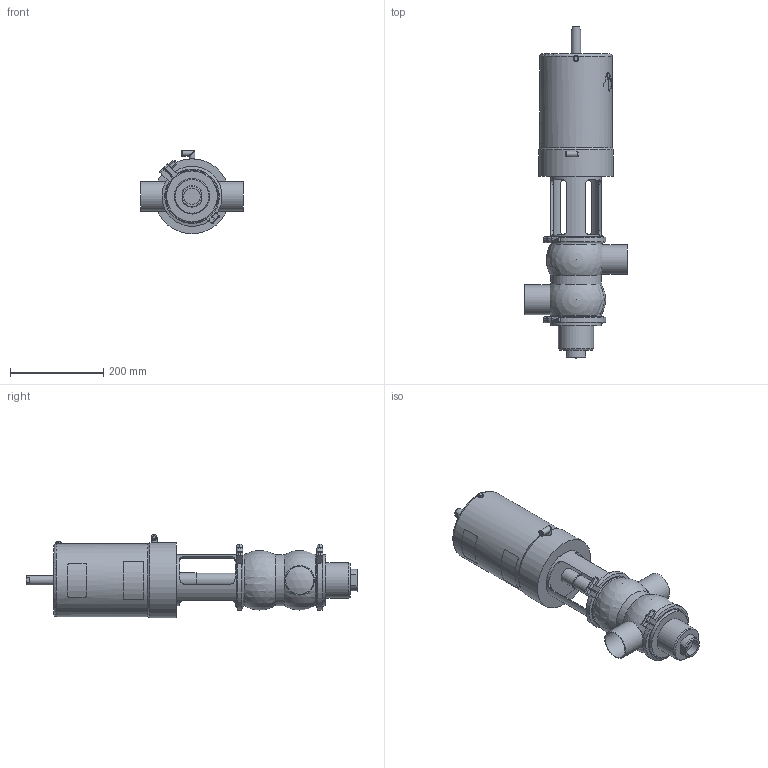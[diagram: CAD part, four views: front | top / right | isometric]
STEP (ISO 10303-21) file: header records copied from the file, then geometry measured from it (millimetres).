
FILE_DESCRIPTION (( 'STEP AP214' ), '1' );
FILE_NAME ('INNOVA S DC-180 W OD 2½_10.251.16.0009.STEP', '2024-08-20T10:25:39', ( '' ), ( '' ), 'SwSTEP 2.0', 'SolidWorks 2023', '' );
FILE_SCHEMA (( 'AUTOMOTIVE_DESIGN' ));
Length unit declared in the file: millimetre
Products named in the file (6): INNOVA S DC-180 W OD 2½_10.251.16.0009; 10.251.15.0001_OD 2½"; 10.251.15.0002_DN 2½"; 10.250.15.0002_Type S T2; 10.240.15.0001_DN 065; 10.251.15.0011_OD 2½"
Assembly tree (6 placements, depth 2):
  INNOVA S DC-180 W OD 2½_10.251.16.0009
    10.251.15.0001_OD 2½"
    10.250.15.0002_Type S T2
    10.251.15.0011_OD 2½"
    10.240.15.0001_DN 065  x2
    10.251.15.0002_DN 2½"
Bounding box: 220 x 712.8 x 179.5 mm (x, y, z)
Volume: 7853931.5 mm3; surface area: 483869.8 mm2
Topology: 6 solids, 6 shells, 419 faces, 1084 edges, 705 vertices
Faces by surface type: plane 200, cylinder 107, bspline 80, cone 27, sphere 4, torus 1
Full cylindrical faces by diameter (mm): 4.2 x2, 5 x1, 6 x1, 6.15 x1, 8 x4, 8.5 x1, 10.5 x2, 12.5 x6, 20 x1, 30.5 x1, 32 x1, 35 x1, 60.2 x2, 63.5 x2, 76 x1, 109 x5, 109.1 x1, 121 x4, 156 x1, 161 x1
Entity records: 22075 total; most frequent: CARTESIAN_POINT 12091, ORIENTED_EDGE 1706, DIRECTION 1327, EDGE_CURVE 853, VERTEX_POINT 585, AXIS2_PLACEMENT_3D 508, EDGE_LOOP 450, FACE_OUTER_BOUND 401
